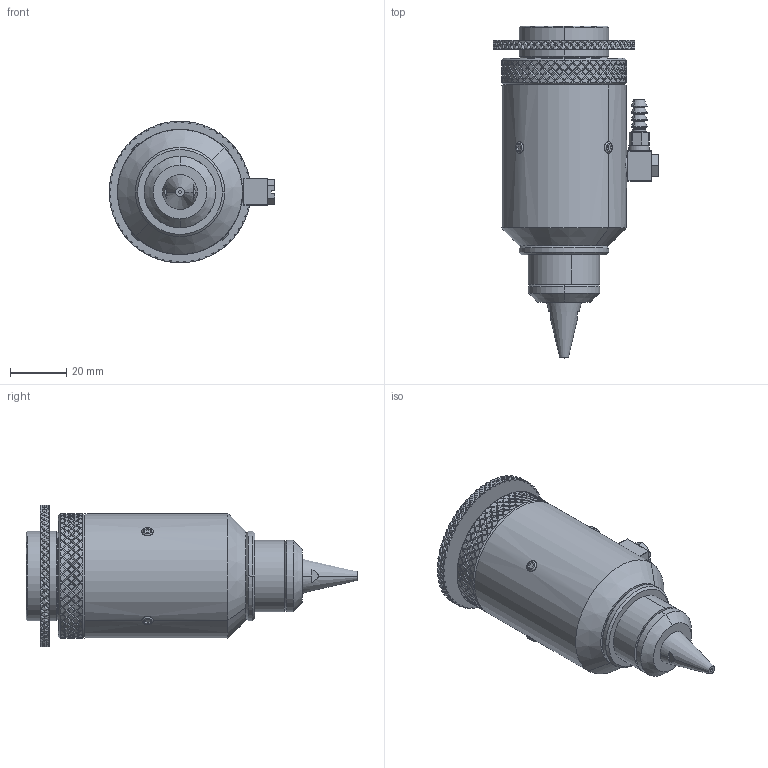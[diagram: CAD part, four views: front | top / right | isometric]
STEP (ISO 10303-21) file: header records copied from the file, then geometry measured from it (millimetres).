
FILE_DESCRIPTION (( 'STEP AP214' ), '1' );
FILE_NAME ('PHA-25-25-075-LB.STEP', '2016-10-06T19:59:34', ( '' ), ( '' ), 'SwSTEP 2.0', 'SolidWorks 2016', '' );
FILE_SCHEMA (( 'AUTOMOTIVE_DESIGN' ));
Length unit declared in the file: inch
Products named in the file (1): PHA-25-25-075-LB
Bounding box: 58.8 x 117.98 x 50.29 mm (x, y, z)
Volume: 113134.7 mm3; surface area: 21231.5 mm2
Topology: 1 solids, 1 shells, 2804 faces, 6194 edges, 3398 vertices
Faces by surface type: plane 2115, cylinder 594, cone 38, torus 37, sphere 20
Entity records: 73944 total; most frequent: CARTESIAN_POINT 19472, ORIENTED_EDGE 12348, DIRECTION 10134, EDGE_CURVE 6174, VERTEX_POINT 3398, AXIS2_PLACEMENT_3D 3382, LINE 3370, VECTOR 3370
